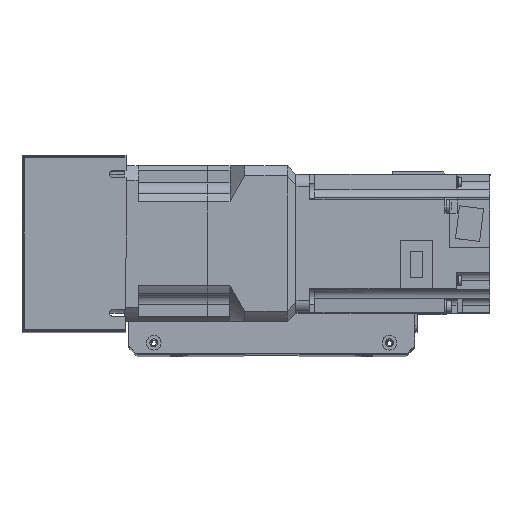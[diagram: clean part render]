
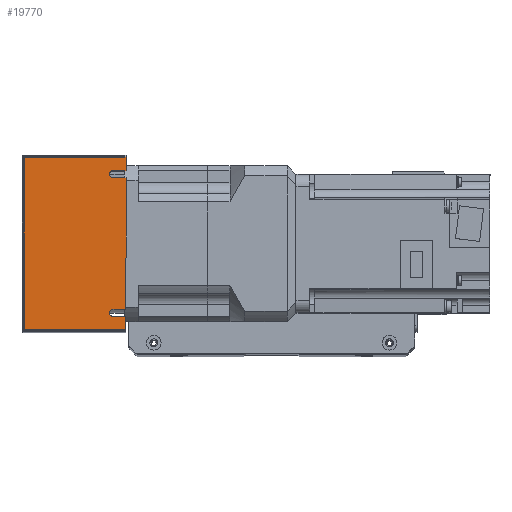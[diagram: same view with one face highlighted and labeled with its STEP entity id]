
A CAD part, top view. The second image highlights one B-rep face of the part: STEP entity #19770.
In plain terms, the highlighted planar face has unit normal (0, 0, 1) as drawn and (-1, 0, 0) by its records, which use the part's own axes.
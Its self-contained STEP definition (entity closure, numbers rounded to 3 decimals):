
#571=PLANE('',#21508);
#1659=LINE('',#31647,#3319);
#1665=LINE('',#31661,#3325);
#1677=LINE('',#31688,#3337);
#1687=LINE('',#31710,#3347);
#1695=LINE('',#31730,#3355);
#1696=LINE('',#31732,#3356);
#1697=LINE('',#31734,#3357);
#1698=LINE('',#31736,#3358);
#1699=LINE('',#31737,#3359);
#1700=LINE('',#31739,#3360);
#3319=VECTOR('',#25588,10.);
#3325=VECTOR('',#25598,10.);
#3337=VECTOR('',#25616,10.);
#3347=VECTOR('',#25630,10.);
#3355=VECTOR('',#25652,10.);
#3356=VECTOR('',#25653,10.);
#3357=VECTOR('',#25654,10.);
#3358=VECTOR('',#25655,10.);
#3359=VECTOR('',#25656,10.);
#3360=VECTOR('',#25659,10.);
#5297=FACE_OUTER_BOUND('',#6681,.T.);
#6681=EDGE_LOOP('',(#15898,#15899,#15900,#15901,#15902,#15903,#15904,#15905,
#15906,#15907,#15908,#15909));
#8089=CIRCLE('',#21503,2.);
#8093=CIRCLE('',#21509,2.);
#9498=VERTEX_POINT('',#31644);
#9499=VERTEX_POINT('',#31646);
#9504=VERTEX_POINT('',#31659);
#9505=VERTEX_POINT('',#31660);
#9516=VERTEX_POINT('',#31686);
#9517=VERTEX_POINT('',#31687);
#9526=VERTEX_POINT('',#31707);
#9527=VERTEX_POINT('',#31709);
#9532=VERTEX_POINT('',#31729);
#9533=VERTEX_POINT('',#31731);
#9534=VERTEX_POINT('',#31733);
#9535=VERTEX_POINT('',#31735);
#11821=EDGE_CURVE('',#9499,#9498,#1659,.T.);
#11827=EDGE_CURVE('',#9504,#9505,#1665,.T.);
#11839=EDGE_CURVE('',#9516,#9517,#1677,.T.);
#11849=EDGE_CURVE('',#9527,#9526,#1687,.T.);
#11851=EDGE_CURVE('',#9505,#9499,#8089,.T.);
#11861=EDGE_CURVE('',#9532,#9498,#1695,.T.);
#11862=EDGE_CURVE('',#9533,#9532,#1696,.T.);
#11863=EDGE_CURVE('',#9534,#9533,#1697,.T.);
#11864=EDGE_CURVE('',#9535,#9534,#1698,.T.);
#11865=EDGE_CURVE('',#9516,#9535,#1699,.T.);
#11866=EDGE_CURVE('',#9517,#9527,#8093,.T.);
#11867=EDGE_CURVE('',#9504,#9526,#1700,.T.);
#15898=ORIENTED_EDGE('',*,*,#11821,.T.);
#15899=ORIENTED_EDGE('',*,*,#11861,.F.);
#15900=ORIENTED_EDGE('',*,*,#11862,.F.);
#15901=ORIENTED_EDGE('',*,*,#11863,.F.);
#15902=ORIENTED_EDGE('',*,*,#11864,.F.);
#15903=ORIENTED_EDGE('',*,*,#11865,.F.);
#15904=ORIENTED_EDGE('',*,*,#11839,.T.);
#15905=ORIENTED_EDGE('',*,*,#11866,.T.);
#15906=ORIENTED_EDGE('',*,*,#11849,.T.);
#15907=ORIENTED_EDGE('',*,*,#11867,.F.);
#15908=ORIENTED_EDGE('',*,*,#11827,.T.);
#15909=ORIENTED_EDGE('',*,*,#11851,.T.);
#19770=ADVANCED_FACE('',(#5297),#571,.T.);
#21503=AXIS2_PLACEMENT_3D('',#31713,#25634,#25635);
#21508=AXIS2_PLACEMENT_3D('',#31728,#25650,#25651);
#21509=AXIS2_PLACEMENT_3D('',#31738,#25657,#25658);
#25588=DIRECTION('',(0.,0.,1.));
#25598=DIRECTION('',(0.,0.,-1.));
#25616=DIRECTION('',(0.,0.,-1.));
#25630=DIRECTION('',(0.,0.,1.));
#25634=DIRECTION('center_axis',(1.,0.,0.));
#25635=DIRECTION('ref_axis',(0.,0.,-1.));
#25650=DIRECTION('center_axis',(-1.,0.,0.));
#25651=DIRECTION('ref_axis',(0.,-1.,0.));
#25652=DIRECTION('',(0.,-1.,0.));
#25653=DIRECTION('',(0.,0.,1.));
#25654=DIRECTION('',(0.,1.,0.));
#25655=DIRECTION('',(0.,0.,-1.));
#25656=DIRECTION('',(0.,-1.,0.));
#25657=DIRECTION('center_axis',(1.,0.,0.));
#25658=DIRECTION('ref_axis',(0.,0.,-1.));
#25659=DIRECTION('',(0.,-1.,0.));
#31644=CARTESIAN_POINT('',(-120.5,42.,30.));
#31646=CARTESIAN_POINT('',(-120.5,42.,22.5));
#31647=CARTESIAN_POINT('',(-120.5,42.,16.304));
#31659=CARTESIAN_POINT('',(-120.5,38.,30.));
#31660=CARTESIAN_POINT('',(-120.5,38.,22.5));
#31661=CARTESIAN_POINT('',(-120.5,38.,11.25));
#31686=CARTESIAN_POINT('',(-120.5,-42.,30.));
#31687=CARTESIAN_POINT('',(-120.5,-42.,22.5));
#31688=CARTESIAN_POINT('',(-120.5,-42.,11.25));
#31707=CARTESIAN_POINT('',(-120.5,-38.,30.));
#31709=CARTESIAN_POINT('',(-120.5,-38.,22.5));
#31710=CARTESIAN_POINT('',(-120.5,-38.,16.169));
#31713=CARTESIAN_POINT('Origin',(-120.5,40.,22.5));
#31728=CARTESIAN_POINT('Origin',(-120.5,51.,0.));
#31729=CARTESIAN_POINT('',(-120.5,50.,30.));
#31730=CARTESIAN_POINT('',(-120.5,-51.,30.));
#31731=CARTESIAN_POINT('',(-120.5,50.,-29.));
#31732=CARTESIAN_POINT('',(-120.5,50.,0.));
#31733=CARTESIAN_POINT('',(-120.5,-50.,-29.));
#31734=CARTESIAN_POINT('',(-120.5,25.5,-29.));
#31735=CARTESIAN_POINT('',(-120.5,-50.,30.));
#31736=CARTESIAN_POINT('',(-120.5,-50.,0.));
#31737=CARTESIAN_POINT('',(-120.5,-51.,30.));
#31738=CARTESIAN_POINT('Origin',(-120.5,-40.,22.5));
#31739=CARTESIAN_POINT('',(-120.5,-51.,30.));
